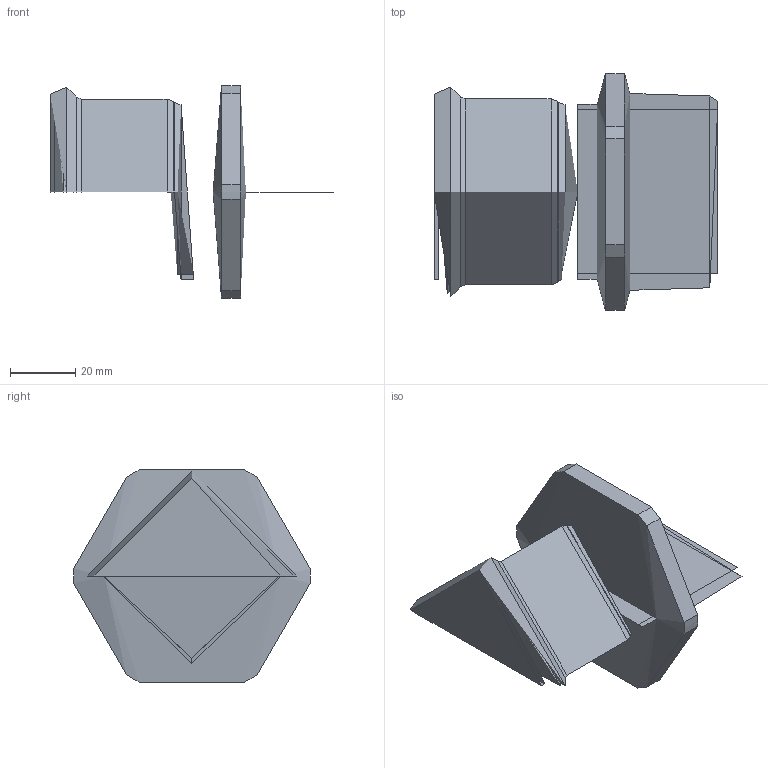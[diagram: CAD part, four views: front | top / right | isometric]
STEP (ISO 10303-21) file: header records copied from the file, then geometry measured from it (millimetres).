
FILE_DESCRIPTION(('FreeCAD Model'),'2;1');
FILE_NAME('Open CASCADE Shape Model','2025-10-20T15:01:30',('Author'),( ''),'Open CASCADE STEP processor 7.8','FreeCAD','Unknown');
FILE_SCHEMA(('AUTOMOTIVE_DESIGN { 1 0 10303 214 1 1 1 1 }'));
Length unit declared in the file: millimetre
Products named in the file (7): Unnamed165; COMPOUND; COMPOUND001; X-Achse; XY-Ebene; COMPOUND002; COMPOUND003
Assembly tree (18 placements, depth 3):
  Unnamed165
    COMPOUND
    COMPOUND001
      COMPOUND
    X-Achse  x6
    XY-Ebene  x6
    COMPOUND002
    COMPOUND003
      COMPOUND002
Bounding box: 87 x 72.54 x 65 mm (x, y, z)
Volume: 101323.5 mm3; surface area: 71161.2 mm2
Topology: 4 solids, 4 shells, 76 faces, 240 edges, 168 vertices
Faces by surface type: bspline 76
Entity records: 1892 total; most frequent: CARTESIAN_POINT 1064, ORIENTED_EDGE 234, EDGE_CURVE 117, VERTEX_POINT 84, FACE_BOUND 43, EDGE_LOOP 43, DIRECTION 39, ADVANCED_FACE 38
